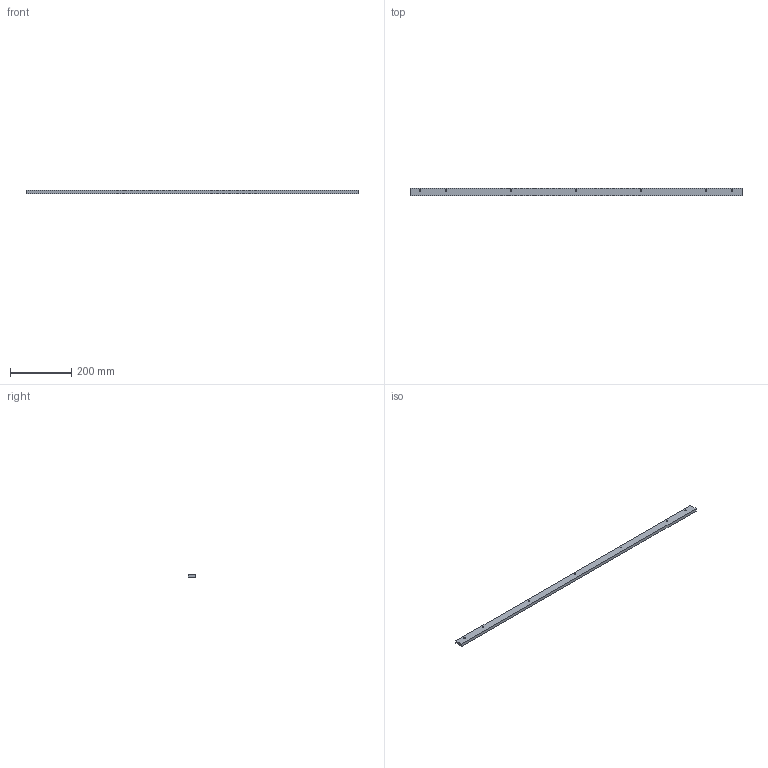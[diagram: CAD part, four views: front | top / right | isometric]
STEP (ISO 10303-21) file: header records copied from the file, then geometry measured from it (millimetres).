
FILE_DESCRIPTION(('STEP AP203'), '1');
FILE_NAME('眐珆1801.01.03.00.003-5 - 冓耪錪', '', ('UNSPECIFIED'), ('UNSPECIFIED'), 'C3D Converter', 'C3D Toolkit', '');
FILE_SCHEMA(('CONFIG_CONTROL_DESIGN'));
Length unit declared in the file: millimetre
Products named in the file (1): ТППФ1801.01.03.00.003-5
Bounding box: 1082 x 25 x 10 mm (x, y, z)
Volume: 256153.6 mm3; surface area: 75152.3 mm2
Topology: 1 solids, 1 shells, 28 faces, 64 edges, 38 vertices
Faces by surface type: cone 14, plane 7, cylinder 7
Full cylindrical faces by diameter (mm): 3.242 x7
Entity records: 873 total; most frequent: DIRECTION 115, CARTESIAN_POINT 96, ORIENTED_EDGE 72, AXIS2_PLACEMENT_3D 50, EDGE_LOOP 49, EDGE_CURVE 36, FACE_OUTER_BOUND 35, VERTEX_POINT 31
